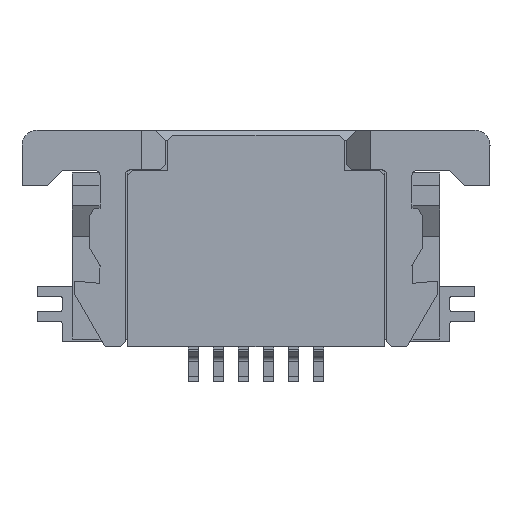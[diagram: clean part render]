
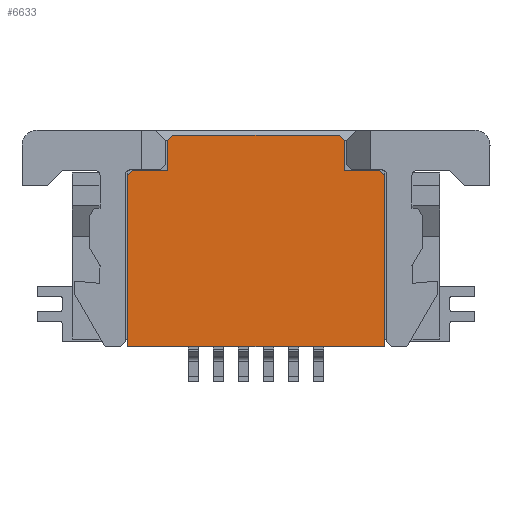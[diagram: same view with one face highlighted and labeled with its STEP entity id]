
A CAD part, top view. The second image highlights one B-rep face of the part: STEP entity #6633.
In plain terms, the highlighted planar face has unit normal (0, 0, 1).
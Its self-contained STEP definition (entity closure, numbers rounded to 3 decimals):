
#61 = EDGE_CURVE ( 'NONE', #5989, #7029, #1420, .T. ) ;
#176 = ORIENTED_EDGE ( 'NONE', *, *, #8979, .F. ) ;
#338 = ORIENTED_EDGE ( 'NONE', *, *, #61, .T. ) ;
#408 = VERTEX_POINT ( 'NONE', #5807 ) ;
#616 = VECTOR ( 'NONE', #6381, 1000. ) ;
#692 = CARTESIAN_POINT ( 'NONE',  ( 0., -0.1, 1.98 ) ) ;
#712 = CARTESIAN_POINT ( 'NONE',  ( 0., -0.8, 1.98 ) ) ;
#740 = CARTESIAN_POINT ( 'NONE',  ( -10.7, -0.8, 1.98 ) ) ;
#802 = VECTOR ( 'NONE', #4528, 1000. ) ;
#840 = DIRECTION ( 'NONE',  ( -1., 0., 0. ) ) ;
#954 = LINE ( 'NONE', #4846, #2489 ) ;
#1312 = CARTESIAN_POINT ( 'NONE',  ( 0., 0., 1.98 ) ) ;
#1338 = DIRECTION ( 'NONE',  ( -1., 0., 0. ) ) ;
#1356 = EDGE_CURVE ( 'NONE', #1975, #1736, #1604, .T. ) ;
#1369 = DIRECTION ( 'NONE',  ( -1., 0., 0. ) ) ;
#1420 = LINE ( 'NONE', #712, #5791 ) ;
#1440 = DIRECTION ( 'NONE',  ( 0., -1., 0. ) ) ;
#1459 = PLANE ( 'NONE',  #5236 ) ;
#1604 = LINE ( 'NONE', #2213, #3261 ) ;
#1736 = VERTEX_POINT ( 'NONE', #740 ) ;
#1751 = EDGE_CURVE ( 'NONE', #3557, #8489, #3789, .T. ) ;
#1800 = ORIENTED_EDGE ( 'NONE', *, *, #3538, .T. ) ;
#1824 = LINE ( 'NONE', #3219, #7661 ) ;
#1975 = VERTEX_POINT ( 'NONE', #9608 ) ;
#2081 = VERTEX_POINT ( 'NONE', #3582 ) ;
#2167 = ORIENTED_EDGE ( 'NONE', *, *, #3371, .F. ) ;
#2213 = CARTESIAN_POINT ( 'NONE',  ( 0., -0.8, 1.98 ) ) ;
#2310 = VECTOR ( 'NONE', #840, 1000. ) ;
#2451 = CARTESIAN_POINT ( 'NONE',  ( -5.7, -0.9, 1.98 ) ) ;
#2456 = DIRECTION ( 'NONE',  ( 0., -1., 0. ) ) ;
#2489 = VECTOR ( 'NONE', #4003, 1000. ) ;
#2670 = EDGE_CURVE ( 'NONE', #2712, #7029, #3157, .T. ) ;
#2712 = VERTEX_POINT ( 'NONE', #6970 ) ;
#2974 = CARTESIAN_POINT ( 'NONE',  ( -3.3, -3.3, 1.98 ) ) ;
#3048 = DIRECTION ( 'NONE',  ( 0., 0., 1. ) ) ;
#3157 = LINE ( 'NONE', #4892, #5774 ) ;
#3219 = CARTESIAN_POINT ( 'NONE',  ( -3.35, -3.35, 1.98 ) ) ;
#3261 = VECTOR ( 'NONE', #5352, 1000. ) ;
#3339 = EDGE_CURVE ( 'NONE', #2081, #408, #8252, .T. ) ;
#3371 = EDGE_CURVE ( 'NONE', #5259, #2081, #5377, .T. ) ;
#3538 = EDGE_CURVE ( 'NONE', #6044, #408, #6329, .T. ) ;
#3557 = VERTEX_POINT ( 'NONE', #9352 ) ;
#3567 = EDGE_CURVE ( 'NONE', #3557, #2712, #1824, .T. ) ;
#3582 = CARTESIAN_POINT ( 'NONE',  ( -5.7, -4.3, 1.98 ) ) ;
#3692 = CARTESIAN_POINT ( 'NONE',  ( -5.8, -0.8, 1.98 ) ) ;
#3747 = VERTEX_POINT ( 'NONE', #9849 ) ;
#3789 = LINE ( 'NONE', #692, #2310 ) ;
#3838 = CARTESIAN_POINT ( 'NONE',  ( -9.9, -0.1, 1.98 ) ) ;
#3921 = LINE ( 'NONE', #6889, #6698 ) ;
#4003 = DIRECTION ( 'NONE',  ( 0., -1., 0. ) ) ;
#4342 = EDGE_CURVE ( 'NONE', #3747, #1975, #954, .T. ) ;
#4402 = FACE_OUTER_BOUND ( 'NONE', #7823, .T. ) ;
#4528 = DIRECTION ( 'NONE',  ( 0.707, -0.707, 0. ) ) ;
#4761 = VECTOR ( 'NONE', #1440, 1000. ) ;
#4846 = CARTESIAN_POINT ( 'NONE',  ( -10., 0., 1.98 ) ) ;
#4892 = CARTESIAN_POINT ( 'NONE',  ( -6.5, 0., 1.98 ) ) ;
#5019 = ORIENTED_EDGE ( 'NONE', *, *, #3567, .F. ) ;
#5104 = DIRECTION ( 'NONE',  ( 1., 0., 0. ) ) ;
#5206 = DIRECTION ( 'NONE',  ( -0.707, -0.707, 0. ) ) ;
#5236 = AXIS2_PLACEMENT_3D ( 'NONE', #1312, #3048, #5104 ) ;
#5259 = VERTEX_POINT ( 'NONE', #2451 ) ;
#5352 = DIRECTION ( 'NONE',  ( -1., 0., 0. ) ) ;
#5377 = LINE ( 'NONE', #9205, #4761 ) ;
#5601 = ORIENTED_EDGE ( 'NONE', *, *, #7586, .T. ) ;
#5774 = VECTOR ( 'NONE', #2456, 1000. ) ;
#5791 = VECTOR ( 'NONE', #1369, 1000. ) ;
#5807 = CARTESIAN_POINT ( 'NONE',  ( -10.8, -4.3, 1.98 ) ) ;
#5958 = LINE ( 'NONE', #9931, #8960 ) ;
#5989 = VERTEX_POINT ( 'NONE', #3692 ) ;
#6044 = VERTEX_POINT ( 'NONE', #6241 ) ;
#6241 = CARTESIAN_POINT ( 'NONE',  ( -10.8, -0.9, 1.98 ) ) ;
#6281 = CARTESIAN_POINT ( 'NONE',  ( -10.8, 0., 1.98 ) ) ;
#6329 = LINE ( 'NONE', #6281, #616 ) ;
#6381 = DIRECTION ( 'NONE',  ( 0., -1., 0. ) ) ;
#6633 = ADVANCED_FACE ( 'NONE', ( #4402 ), #1459, .T. ) ;
#6698 = VECTOR ( 'NONE', #9109, 1000. ) ;
#6889 = CARTESIAN_POINT ( 'NONE',  ( -4.95, 4.95, 1.98 ) ) ;
#6970 = CARTESIAN_POINT ( 'NONE',  ( -6.5, -0.2, 1.98 ) ) ;
#7029 = VERTEX_POINT ( 'NONE', #8666 ) ;
#7168 = ORIENTED_EDGE ( 'NONE', *, *, #2670, .F. ) ;
#7180 = DIRECTION ( 'NONE',  ( 0.707, -0.707, 0. ) ) ;
#7586 = EDGE_CURVE ( 'NONE', #1736, #6044, #3921, .T. ) ;
#7661 = VECTOR ( 'NONE', #7180, 1000. ) ;
#7689 = LINE ( 'NONE', #2974, #802 ) ;
#7823 = EDGE_LOOP ( 'NONE', ( #9022, #9599, #5601, #1800, #8527, #2167, #176, #338, #7168, #5019, #9530, #8164 ) ) ;
#8164 = ORIENTED_EDGE ( 'NONE', *, *, #9858, .T. ) ;
#8204 = CARTESIAN_POINT ( 'NONE',  ( 0., -4.3, 1.98 ) ) ;
#8252 = LINE ( 'NONE', #8204, #8942 ) ;
#8489 = VERTEX_POINT ( 'NONE', #3838 ) ;
#8527 = ORIENTED_EDGE ( 'NONE', *, *, #3339, .F. ) ;
#8666 = CARTESIAN_POINT ( 'NONE',  ( -6.5, -0.8, 1.98 ) ) ;
#8942 = VECTOR ( 'NONE', #1338, 1000. ) ;
#8960 = VECTOR ( 'NONE', #5206, 1000. ) ;
#8979 = EDGE_CURVE ( 'NONE', #5989, #5259, #7689, .T. ) ;
#9022 = ORIENTED_EDGE ( 'NONE', *, *, #4342, .T. ) ;
#9109 = DIRECTION ( 'NONE',  ( -0.707, -0.707, 0. ) ) ;
#9205 = CARTESIAN_POINT ( 'NONE',  ( -5.7, 0., 1.98 ) ) ;
#9352 = CARTESIAN_POINT ( 'NONE',  ( -6.6, -0.1, 1.98 ) ) ;
#9530 = ORIENTED_EDGE ( 'NONE', *, *, #1751, .T. ) ;
#9599 = ORIENTED_EDGE ( 'NONE', *, *, #1356, .T. ) ;
#9608 = CARTESIAN_POINT ( 'NONE',  ( -10., -0.8, 1.98 ) ) ;
#9849 = CARTESIAN_POINT ( 'NONE',  ( -10., -0.2, 1.98 ) ) ;
#9858 = EDGE_CURVE ( 'NONE', #8489, #3747, #5958, .T. ) ;
#9931 = CARTESIAN_POINT ( 'NONE',  ( -4.9, 4.9, 1.98 ) ) ;
